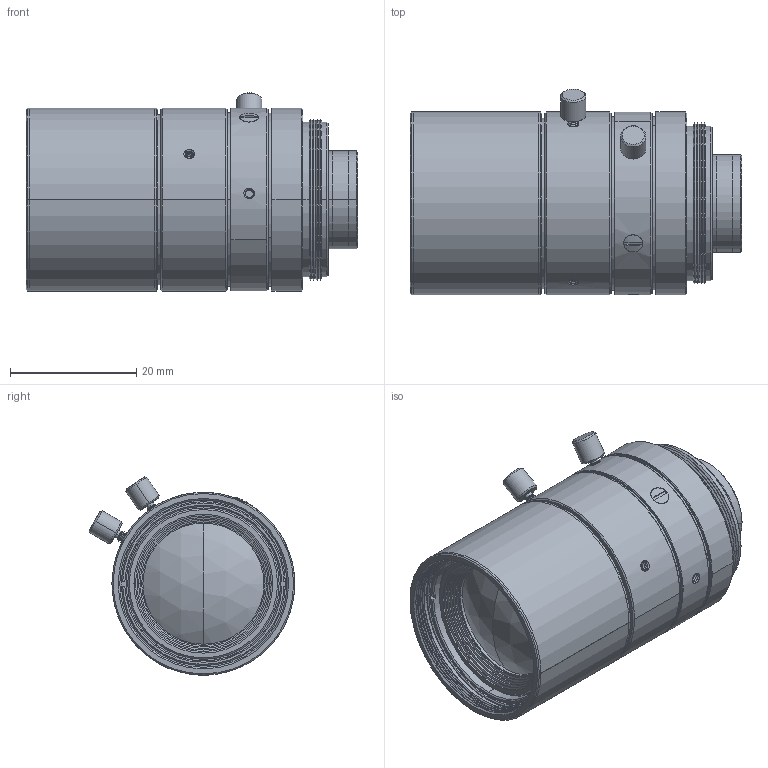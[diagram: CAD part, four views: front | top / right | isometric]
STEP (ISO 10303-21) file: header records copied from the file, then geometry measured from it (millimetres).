
FILE_DESCRIPTION(('LS-FFL-0021'),'2;1');
FILE_NAME('LS-FFL-0021.stp','2026-10-15T21:48:53',('LumaSpec Vision'),('LumaSpec Vision'),'LumaSpec Vision','LumaSpec Vision','');
FILE_SCHEMA(('AUTOMOTIVE_DESIGN { 1 0 10303 214 1 1 1 1 }'));
Length unit declared in the file: millimetre
Products named in the file (43): LS-FFL-0021
Assembly tree (42 placements, depth 3):
  LS-FFL-0021
    (unnamed)
      (unnamed)
      (unnamed)
      (unnamed)
      (unnamed)
      (unnamed)
      (unnamed)
      (unnamed)
      (unnamed)
      (unnamed)
      (unnamed)
      (unnamed)
      (unnamed)
      (unnamed)
      (unnamed)
      (unnamed)
      (unnamed)
      (unnamed)
      (unnamed)
      (unnamed)
      (unnamed)
    (unnamed)
      (unnamed)
      (unnamed)
      (unnamed)
      (unnamed)
      (unnamed)
      (unnamed)
      (unnamed)
      (unnamed)
      (unnamed)
      (unnamed)
      (unnamed)
      (unnamed)
      (unnamed)
      (unnamed)
      (unnamed)
      (unnamed)
      (unnamed)
      (unnamed)
      (unnamed)
      (unnamed)
Bounding box: 52.57 x 32.61 x 31.44 mm (x, y, z)
Volume: 36823.9 mm3; surface area: 54905.2 mm2
Topology: 40 solids, 40 shells, 1780 faces, 3700 edges, 2138 vertices
Faces by surface type: cone 1032, cylinder 454, plane 274, sphere 20
Entity records: 104608 total; most frequent: CARTESIAN_POINT 25875, DIRECTION 15962, LINE 7858, VECTOR 7858, ORIENTED_EDGE 7400, PCURVE 7400, DEFINITIONAL_REPRESENTATION 7400, AXIS2_PLACEMENT_3D 3803
